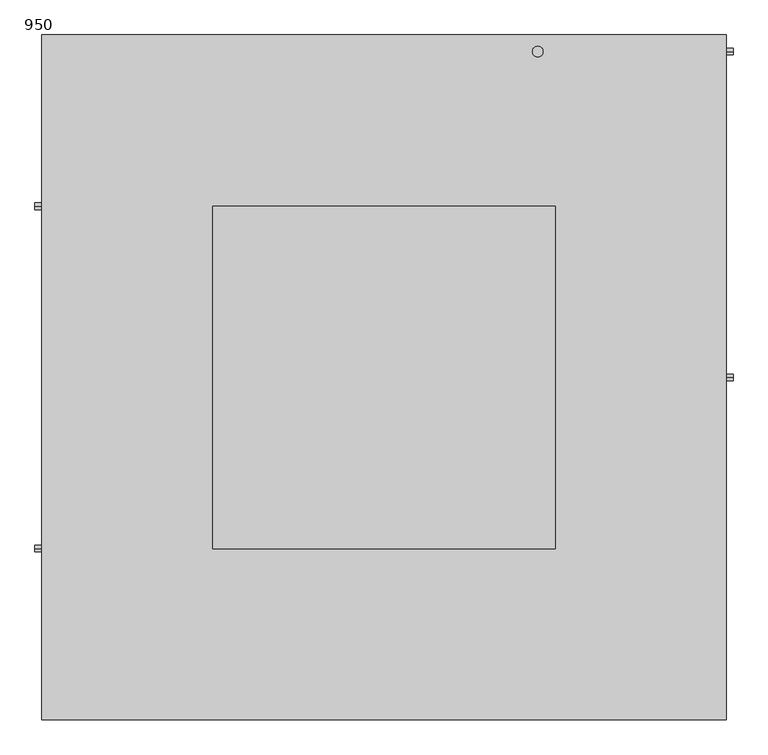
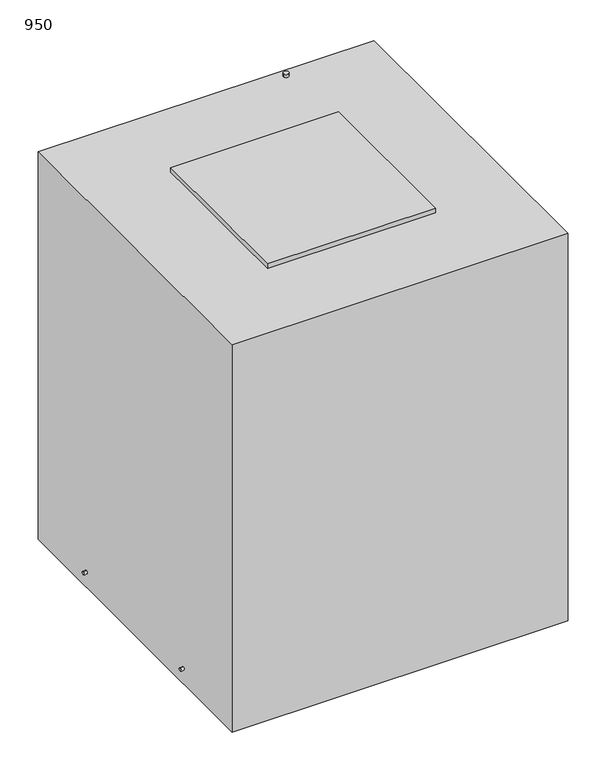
"""IFC4 building model written with IfcOpenShell, lengths in millimetres: electric distribution board geometry, 50006_発電設備_TOSG_燃料小出槽_屋外型 : 950."""

from ifc_helpers import new_model, si_unit, point, frame, frame_2d, origin, place, context, project, spatial, polyline, circle_curve, trimmed, segment, composite_curve, outline, extrude, source, transform, mapped, element, save


def electric_distribution_board_950_b4ce6e54(model_context):
    return source(origin(), model_context, "Body", "SweptSolid", [
        extrude(outline(composite_curve([segment(trimmed(circle_curve(frame_2d((512.5, 399.9990629)), 10.0), [point((512.5, 389.9990629))], [point((512.5, 409.9990629))], False, "CARTESIAN"), True, "CONTINUOUS"), segment(trimmed(circle_curve(frame_2d((512.5, 399.9990629)), 10.0), [point((512.5, 409.9990629))], [point((512.5, 389.9990629))], False, "CARTESIAN"), True, "CONTINUOUS")], self_intersect=False)), frame((-1045.0, 0.0, 0.0), z_axis=(1.0, 0.0, 0.0), x_axis=(0.0, 1.0, 0.0)), (0.0, 0.0, 1.0), 20.0),
        extrude(outline(composite_curve([segment(trimmed(circle_curve(frame_2d((460.25, 975.0)), 16.0), [point((476.25, 975.0))], [point((444.25, 975.0))], False, "CARTESIAN"), True, "CONTINUOUS"), segment(trimmed(circle_curve(frame_2d((460.25, 975.0)), 16.0), [point((444.25, 975.0))], [point((476.25, 975.0))], False, "CARTESIAN"), True, "CONTINUOUS")], self_intersect=False)), frame((0.0, 0.0, 2800.0), z_axis=(0.0, 0.0, 1.0), x_axis=(1.0, 0.0, 0.0)), (0.0, 0.0, 1.0), 20.0),
        extrude(outline(composite_curve([segment(trimmed(circle_curve(frame_2d((975.0, 2700.0)), 10.0), [point((975.0, 2690.0))], [point((975.0, 2710.0))], False, "CARTESIAN"), True, "CONTINUOUS"), segment(trimmed(circle_curve(frame_2d((975.0, 2700.0)), 10.0), [point((975.0, 2710.0))], [point((975.0, 2690.0))], False, "CARTESIAN"), True, "CONTINUOUS")], self_intersect=False)), frame((1025.0, 0.0, 0.0), z_axis=(1.0, 0.0, 0.0), x_axis=(0.0, 1.0, 0.0)), (0.0, 0.0, 1.0), 20.0),
        extrude(outline(composite_curve([segment(trimmed(circle_curve(frame_2d((0.0, 2700.0)), 10.0), [point((0.0, 2690.0))], [point((0.0, 2710.0))], False, "CARTESIAN"), True, "CONTINUOUS"), segment(trimmed(circle_curve(frame_2d((0.0, 2700.0)), 10.0), [point((0.0, 2710.0))], [point((0.0, 2690.0))], False, "CARTESIAN"), True, "CONTINUOUS")], self_intersect=False)), frame((1025.0, 0.0, 0.0), z_axis=(1.0, 0.0, 0.0), x_axis=(0.0, 1.0, 0.0)), (0.0, 0.0, 1.0), 20.0),
        extrude(outline(composite_curve([segment(trimmed(circle_curve(frame_2d((-512.5, 399.9990629)), 10.0), [point((-512.5, 389.9990629))], [point((-512.5, 409.9990629))], False, "CARTESIAN"), True, "CONTINUOUS"), segment(trimmed(circle_curve(frame_2d((-512.5, 399.9990629)), 10.0), [point((-512.5, 409.9990629))], [point((-512.5, 389.9990629))], False, "CARTESIAN"), True, "CONTINUOUS")], self_intersect=False)), frame((-1045.0, 0.0, 0.0), z_axis=(1.0, 0.0, 0.0), x_axis=(0.0, 1.0, 0.0)), (0.0, 0.0, 1.0), 20.0),
        extrude(outline(polyline([(1025.0, 1025.0), (1025.0, -1025.0), (-1025.0, -1025.0), (-1025.0, 1025.0), (1025.0, 1025.0)])), frame((0.0, 0.0, 300.0), z_axis=(0.0, 0.0, 1.0), x_axis=(1.0, 0.0, 0.0)), (0.0, 0.0, 1.0), 2500.0),
        extrude(outline(polyline([(512.5, 512.5), (512.5, -512.5), (-512.5, -512.5), (-512.5, 512.5), (512.5, 512.5)])), frame((0.0, 0.0, 2800.0), z_axis=(0.0, 0.0, 1.0), x_axis=(1.0, 0.0, 0.0)), (0.0, 0.0, 1.0), 30.0),
    ])


if __name__ == "__main__":
    model = new_model("IFC4")
    model_context = context("Model", 3, world=origin())
    ifc_project = project(units=[si_unit("LENGTHUNIT", "METRE", prefix="MILLI")], contexts=[model_context])
    site = spatial("IfcSite", under=ifc_project)
    building = spatial("IfcBuilding", under=site)
    placement = place(None, origin())
    electric_distribution_board_950_shape = electric_distribution_board_950_b4ce6e54(model_context)
    element("IfcElectricDistributionBoard", 1, ObjectType="50006_発電設備_TOSG_燃料小出槽_屋外型 : 950", at=placement, inside=building, context=model_context, shape_type="MappedRepresentation", body=[
        mapped(electric_distribution_board_950_shape, transform((0.0, 0.0, 0.0), x_axis=(1.0, 0.0, 0.0), y_axis=(0.0, 1.0, 0.0), z_axis=(0.0, 0.0, 1.0))),
    ])
    save(model, "model.ifc")
